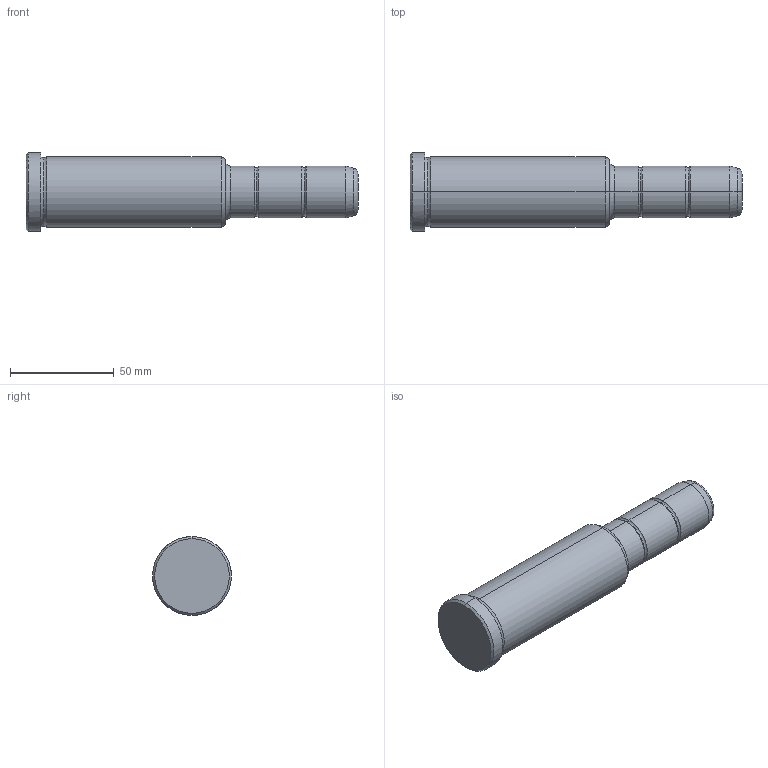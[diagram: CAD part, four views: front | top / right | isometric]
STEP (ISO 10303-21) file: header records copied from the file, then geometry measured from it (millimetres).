
FILE_DESCRIPTION(('CATIA V5 STEP Exchange'),'2;1');
FILE_NAME('C:\Users\Utente\Desktop\IO LAVORO\3D X SITO CF\X SITO\PLASTICA\351\351-25X96X160.stp','2021-09-07T12:20:46+00:00',('none'),('none'),'CATIA Version 5 Release 20 GA (IN-10)','CATIA V5 STEP AP203','none');
FILE_SCHEMA(('CONFIG_CONTROL_DESIGN'));
Length unit declared in the file: millimetre
Products named in the file (1): 351-25X96X160
Bounding box: 160 x 38 x 38 mm (x, y, z)
Volume: 119370.6 mm3; surface area: 17326.9 mm2
Topology: 1 solids, 1 shells, 36 faces, 102 edges, 70 vertices
Faces by surface type: torus 16, cylinder 10, cone 6, plane 4
Entity records: 1292 total; most frequent: CARTESIAN_POINT 321, ORIENTED_EDGE 204, DIRECTION 166, AXIS2_PLACEMENT_3D 115, EDGE_CURVE 102, CIRCLE 78, VERTEX_POINT 70, EDGE_LOOP 38
